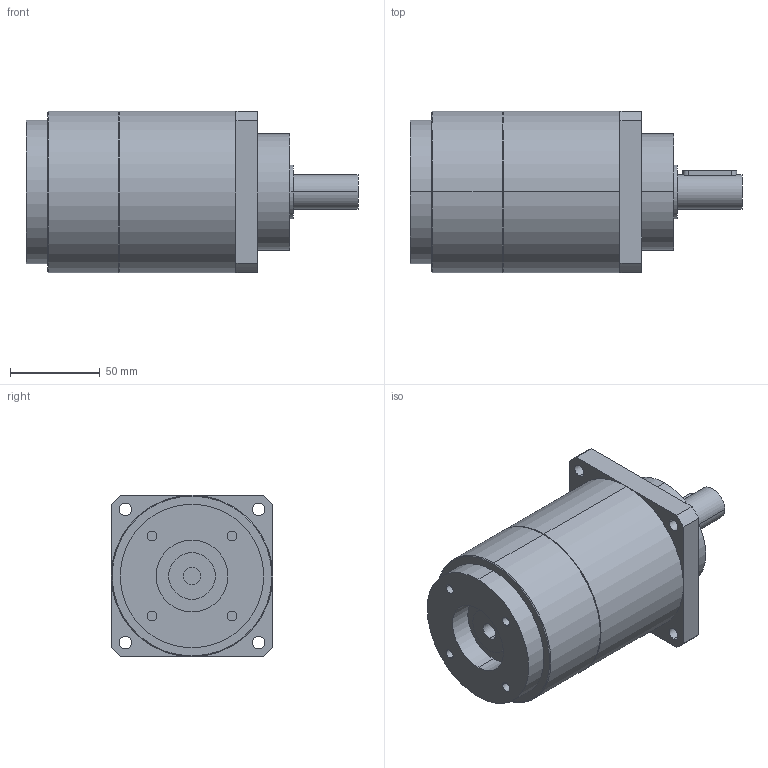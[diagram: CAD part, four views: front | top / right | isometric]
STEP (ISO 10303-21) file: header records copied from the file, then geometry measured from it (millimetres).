
FILE_DESCRIPTION(('CoCreate Modeling STEP Export'),'2;1');
FILE_NAME('GPT90_ig-9-12-16-20-25-28-35-40-50-70-100_19_B5T_9.525_P17.stp','2015-02-04T11:35:02',(''),(''),'CoCreate Modeling STEP processor for AP214 (Solid Model)','CoCreate Modeling 16.00C 25-Feb-2009 (C) Parametric Technology GmbH','');
FILE_SCHEMA(('AUTOMOTIVE_DESIGN { 1 0 10303 214 1 1 1 1 }'));
Length unit declared in the file: millimetre
Products named in the file (2): GPT90_ig-9-12-16-20-25-28-35-40-50-70-100_19_B5T_9.525_P17
Assembly tree (1 placements, depth 2):
  GPT90_ig-9-12-16-20-25-28-35-40-50-70-100_19_B5T_9.525_P17
    GPT90_ig-9-12-16-20-25-28-35-40-50-70-100_19_B5T_9.525_P17
Bounding box: 185 x 90 x 90 mm (x, y, z)
Volume: 877166.5 mm3; surface area: 63965.6 mm2
Topology: 1 solids, 1 shells, 72 faces, 182 edges, 125 vertices
Faces by surface type: cylinder 42, plane 26, cone 4
Entity records: 2313 total; most frequent: CARTESIAN_POINT 692, ORIENTED_EDGE 364, DIRECTION 272, EDGE_CURVE 182, VERTEX_POINT 125, AXIS2_PLACEMENT_3D 102, EDGE_LOOP 93, FACE_OUTER_BOUND 72
